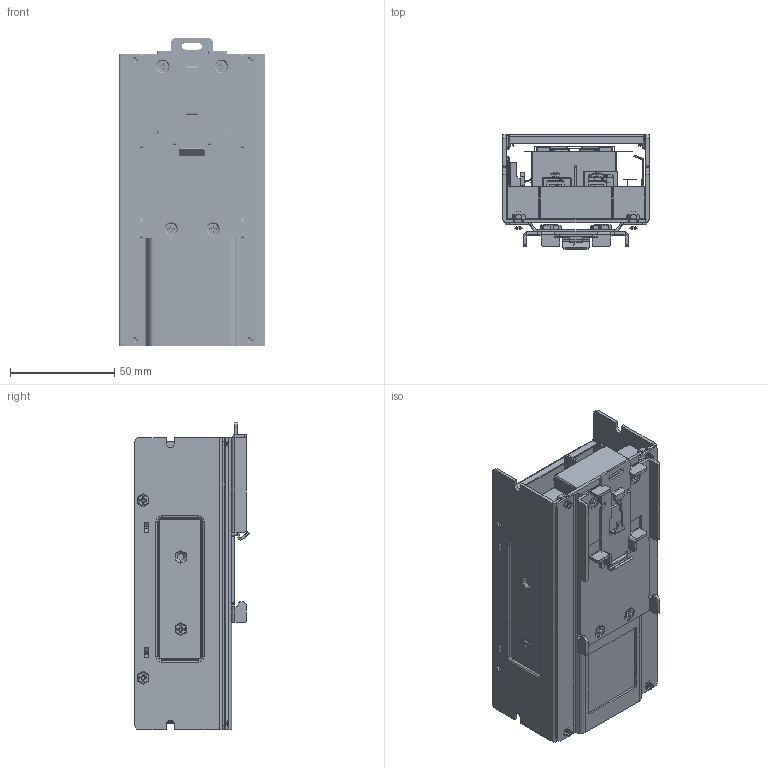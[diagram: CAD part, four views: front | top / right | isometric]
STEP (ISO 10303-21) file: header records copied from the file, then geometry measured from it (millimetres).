
FILE_DESCRIPTION((''),'2;1');
FILE_NAME('PV150-29B_R3_ASM','2024-04-12T',('pe203'),(''),'PRO/ENGINEER BY PARAMETRIC TECHNOLOGY CORPORATION, 2014000','PRO/ENGINEER BY PARAMETRIC TECHNOLOGY CORPORATION, 2014000','');
FILE_SCHEMA(('AUTOMOTIVE_DESIGN { 1 0 10303 214 1 1 1 1 }'));
Products named in the file (1): PV150-29B_R3_ASM
Bounding box: 70 x 54.84 x 147.5 mm (x, y, z)
Volume: 250322 mm3; surface area: 304666.5 mm2
Topology: 1 solids, 118 shells, 17940 faces, 52564 edges, 35653 vertices
Faces by surface type: plane 10304, cylinder 5450, torus 799, bspline 593, extrusion 297, cone 287, sphere 208, revolution 2
Full cylindrical faces by diameter (mm): 0.2 x112, 0.26 x1, 0.3 x580, 0.4 x82, 0.454 x2, 0.5 x14, 0.54 x16, 0.55 x8, 0.584 x1, 0.6 x393, 0.69 x1, 0.8 x26, 0.85 x20, 0.9 x12, 0.98 x4, 1 x186, 1.06 x16, 1.167 x1, 1.2 x4, 1.3 x4, 1.335 x8, 1.4 x8, 1.5 x4, 1.6 x4, 2 x32, 2.12 x16, 2.4 x4, 2.45 x3, 2.5 x4, 2.6 x152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
Entity records: 811214 total; most frequent: CARTESIAN_POINT 233497, ORIENTED_EDGE 103806, DIRECTION 87226, EDGE_CURVE 52532, VERTEX_POINT 35685, VECTOR 32078, LINE 31807, AXIS2_PLACEMENT_3D 27573
